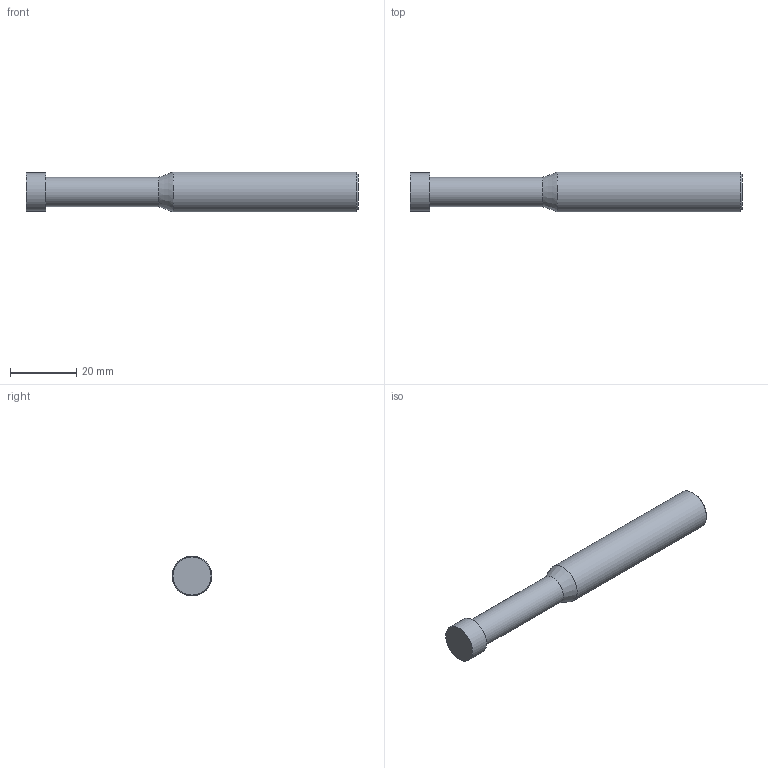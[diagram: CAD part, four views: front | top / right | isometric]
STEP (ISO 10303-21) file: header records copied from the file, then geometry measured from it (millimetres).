
FILE_DESCRIPTION(/* description */ (''),/* implementation_level */ '2;1');
FILE_NAME(/* name */ 'HSXDT-2-40 12100.stp',/* time_stamp */ '2026-02-26T15:39:33+08:00',/* author */ (''),/* organization */ (''),/* preprocessor_version */ 'ST-DEVELOPER v16',/* originating_system */ 'SIEMENS PLM Software NX 10.0',/* authorisation */ '');
FILE_SCHEMA (('CONFIG_CONTROL_DESIGN'));
Length unit declared in the file: millimetre
Products named in the file (1): HSXDT-2-40 12100_dxf
Bounding box: 100 x 12 x 12 mm (x, y, z)
Volume: 9376.8 mm3; surface area: 3780.3 mm2
Topology: 2 solids, 2 shells, 9 faces, 12 edges, 7 vertices
Faces by surface type: plane 4, cylinder 3, cone 2
Full cylindrical faces by diameter (mm): 8.85 x1, 11.5 x1, 12 x1
Entity records: 246 total; most frequent: DIRECTION 34, CARTESIAN_POINT 24, AXIS2_PLACEMENT_3D 17, EDGE_LOOP 14, ORIENTED_EDGE 14, FACE_BOUND 10, ADVANCED_FACE 9, PERSON_AND_ORGANIZATION 7
